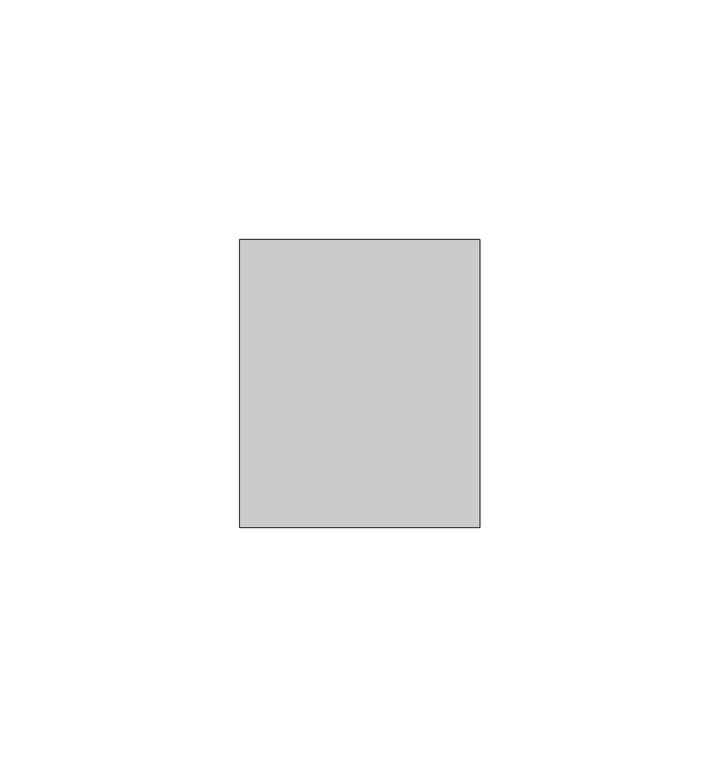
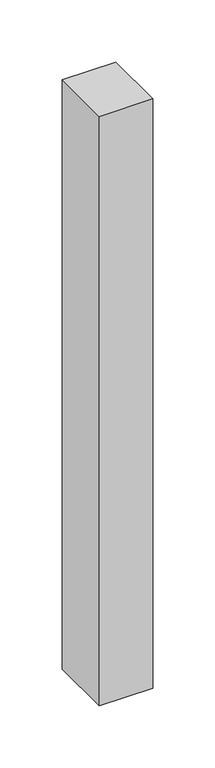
"""IFC4 building model written with IfcOpenShell, lengths in millimetres: plate geometry, Системная панель : Алюкобонд серый."""

from ifc_helpers import new_model, si_unit, origin, origin_with_axes, place, context, project, spatial, polyline, outline, extrude, source, transform, mapped, element, save


def plate_306e11f5(model_context):
    return source(origin(), model_context, "Body", "SweptSolid", [
        extrude(outline(polyline([(25.0, -10.5), (-25.0, -10.5), (-25.0, 49.5), (25.0, 49.5), (25.0, -10.5)])), origin_with_axes(), (0.0, 0.0, 1.0), 580.0),
    ])


if __name__ == "__main__":
    model = new_model("IFC4")
    model_context = context("Model", 3, world=origin())
    ifc_project = project(units=[si_unit("LENGTHUNIT", "METRE", prefix="MILLI")], contexts=[model_context])
    site = spatial("IfcSite", under=ifc_project)
    building = spatial("IfcBuilding", under=site)
    placement = place(None, origin())
    plate_shape = plate_306e11f5(model_context)
    element("IfcPlate", 1, ObjectType="Системная панель : Алюкобонд серый", at=placement, inside=building, context=model_context, shape_type="MappedRepresentation", body=[
        mapped(plate_shape, transform((0.0, 0.0, 0.0), x_axis=(1.0, 0.0, 0.0), y_axis=(0.0, 1.0, 0.0), z_axis=(0.0, 0.0, 1.0))),
    ])
    save(model, "model.ifc")
